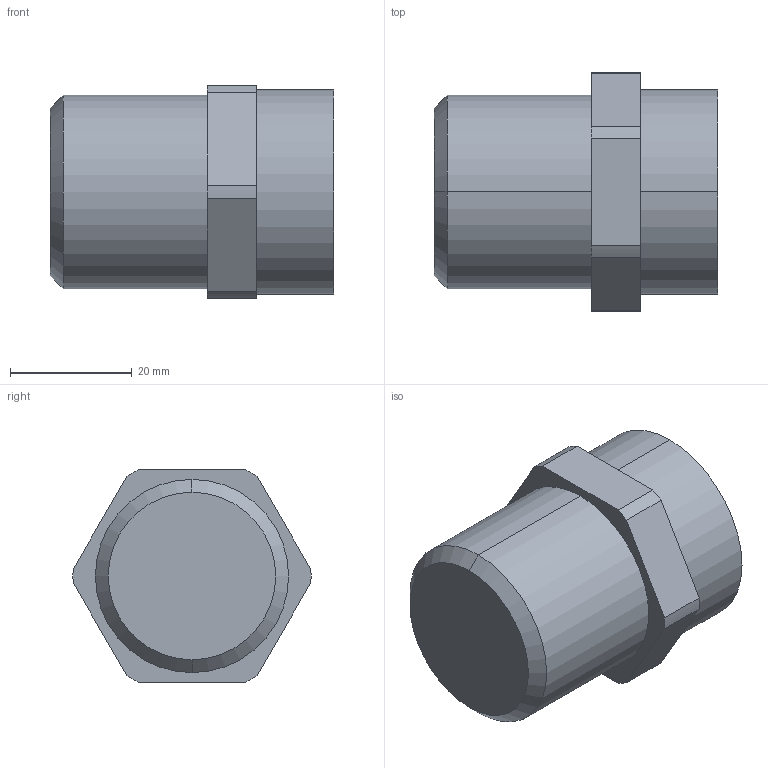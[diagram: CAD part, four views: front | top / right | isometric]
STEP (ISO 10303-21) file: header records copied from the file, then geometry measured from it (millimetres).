
FILE_DESCRIPTION (( 'STEP AP214' ), '1' );
FILE_NAME ('Fitting Weldable 16.STEP', '2012-09-27T14:21:41', ( '' ), ( '' ), 'SwSTEP 2.0', 'SolidWorks 2012', '' );
FILE_SCHEMA (( 'AUTOMOTIVE_DESIGN' ));
Length unit declared in the file: inch
Products named in the file (1): Fitting Weldable 16
Bounding box: 46.58 x 39.11 x 34.92 mm (x, y, z)
Volume: 32864 mm3; surface area: 7913.5 mm2
Topology: 1 solids, 1 shells, 25 faces, 58 edges, 38 vertices
Faces by surface type: cylinder 12, plane 11, cone 2
Entity records: 801 total; most frequent: DIRECTION 136, CARTESIAN_POINT 122, ORIENTED_EDGE 116, EDGE_CURVE 58, AXIS2_PLACEMENT_3D 52, VERTEX_POINT 38, VECTOR 32, LINE 32
